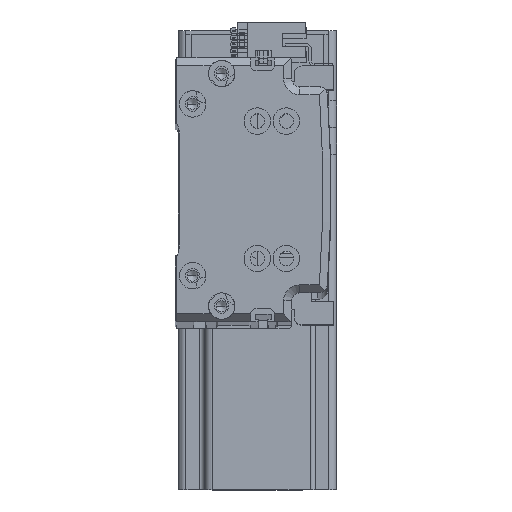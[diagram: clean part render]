
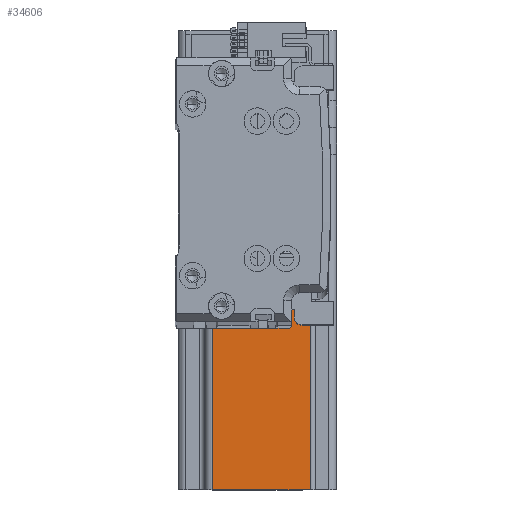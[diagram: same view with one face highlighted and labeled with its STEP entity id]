
A CAD part, top view. The second image highlights one B-rep face of the part: STEP entity #34606.
In plain terms, the highlighted planar face has unit normal (0, 0, 1) as drawn and (-1, 0, 0) by its records, which use the part's own axes.
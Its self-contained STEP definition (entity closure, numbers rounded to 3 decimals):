
#1482 = VECTOR ( 'NONE', #54717, 1000. ) ;
#2549 = VERTEX_POINT ( 'NONE', #33793 ) ;
#3264 = VECTOR ( 'NONE', #19195, 1000. ) ;
#4182 = ORIENTED_EDGE ( 'NONE', *, *, #14760, .F. ) ;
#4742 = VERTEX_POINT ( 'NONE', #36850 ) ;
#4825 = AXIS2_PLACEMENT_3D ( 'NONE', #40047, #13815, #44481 ) ;
#6378 = LINE ( 'NONE', #8606, #26887 ) ;
#6568 = EDGE_CURVE ( 'NONE', #44377, #4742, #35814, .T. ) ;
#7349 = VERTEX_POINT ( 'NONE', #17423 ) ;
#7611 = DIRECTION ( 'NONE',  ( 0., 1., 0. ) ) ;
#8373 = CARTESIAN_POINT ( 'NONE',  ( -30., 20., 10. ) ) ;
#8460 = ORIENTED_EDGE ( 'NONE', *, *, #6568, .T. ) ;
#8606 = CARTESIAN_POINT ( 'NONE',  ( -30., -30., 137. ) ) ;
#9092 = VERTEX_POINT ( 'NONE', #13419 ) ;
#9552 = ORIENTED_EDGE ( 'NONE', *, *, #55688, .T. ) ;
#10097 = VECTOR ( 'NONE', #40309, 1000. ) ;
#10295 = VECTOR ( 'NONE', #7611, 1000. ) ;
#13092 = EDGE_CURVE ( 'NONE', #4742, #34110, #18953, .T. ) ;
#13102 = LINE ( 'NONE', #50317, #1482 ) ;
#13419 = CARTESIAN_POINT ( 'NONE',  ( -30., 20., 137. ) ) ;
#13815 = DIRECTION ( 'NONE',  ( 1., 0., 0. ) ) ;
#14760 = EDGE_CURVE ( 'NONE', #21367, #34110, #14864, .T. ) ;
#14864 = LINE ( 'NONE', #36639, #3264 ) ;
#16518 = ORIENTED_EDGE ( 'NONE', *, *, #35011, .F. ) ;
#16654 = ORIENTED_EDGE ( 'NONE', *, *, #50469, .T. ) ;
#17423 = CARTESIAN_POINT ( 'NONE',  ( -30., 27., 10. ) ) ;
#18953 = LINE ( 'NONE', #38284, #42306 ) ;
#19195 = DIRECTION ( 'NONE',  ( 0., -1., 0. ) ) ;
#19388 = LINE ( 'NONE', #8373, #52994 ) ;
#21367 = VERTEX_POINT ( 'NONE', #23271 ) ;
#21931 = LINE ( 'NONE', #46726, #10295 ) ;
#22845 = CARTESIAN_POINT ( 'NONE',  ( -30., -27., 10. ) ) ;
#23206 = CARTESIAN_POINT ( 'NONE',  ( -30., 20., 10. ) ) ;
#23271 = CARTESIAN_POINT ( 'NONE',  ( -30., -17., 10. ) ) ;
#23519 = VERTEX_POINT ( 'NONE', #23206 ) ;
#23546 = ORIENTED_EDGE ( 'NONE', *, *, #13092, .T. ) ;
#24160 = VECTOR ( 'NONE', #42269, 1000. ) ;
#26668 = CARTESIAN_POINT ( 'NONE',  ( -30., 27., 0. ) ) ;
#26887 = VECTOR ( 'NONE', #39233, 1000. ) ;
#33793 = CARTESIAN_POINT ( 'NONE',  ( -30., -17., 137. ) ) ;
#34110 = VERTEX_POINT ( 'NONE', #22845 ) ;
#34606 = ADVANCED_FACE ( 'NONE', ( #51018 ), #48683, .F. ) ;
#35011 = EDGE_CURVE ( 'NONE', #9092, #2549, #6378, .T. ) ;
#35814 = LINE ( 'NONE', #37846, #24160 ) ;
#35899 = CARTESIAN_POINT ( 'NONE',  ( -30., 27., 137. ) ) ;
#36639 = CARTESIAN_POINT ( 'NONE',  ( -30., -30., 10. ) ) ;
#36850 = CARTESIAN_POINT ( 'NONE',  ( -30., -27., 0. ) ) ;
#37846 = CARTESIAN_POINT ( 'NONE',  ( -30., -30., 0. ) ) ;
#38284 = CARTESIAN_POINT ( 'NONE',  ( -30., -27., 137. ) ) ;
#38994 = DIRECTION ( 'NONE',  ( 0., 0., 1. ) ) ;
#39233 = DIRECTION ( 'NONE',  ( 0., -1., 0. ) ) ;
#39684 = EDGE_CURVE ( 'NONE', #23519, #7349, #21931, .T. ) ;
#40047 = CARTESIAN_POINT ( 'NONE',  ( -30., -30., 137. ) ) ;
#40309 = DIRECTION ( 'NONE',  ( 0., 0., -1. ) ) ;
#40888 = ORIENTED_EDGE ( 'NONE', *, *, #41818, .F. ) ;
#41614 = ORIENTED_EDGE ( 'NONE', *, *, #39684, .T. ) ;
#41818 = EDGE_CURVE ( 'NONE', #23519, #9092, #19388, .T. ) ;
#42269 = DIRECTION ( 'NONE',  ( 0., -1., 0. ) ) ;
#42306 = VECTOR ( 'NONE', #42516, 1000. ) ;
#42516 = DIRECTION ( 'NONE',  ( 0., 0., 1. ) ) ;
#44377 = VERTEX_POINT ( 'NONE', #26668 ) ;
#44481 = DIRECTION ( 'NONE',  ( 0., 0., -1. ) ) ;
#45074 = LINE ( 'NONE', #35899, #10097 ) ;
#46726 = CARTESIAN_POINT ( 'NONE',  ( -30., 30., 10. ) ) ;
#48683 = PLANE ( 'NONE',  #4825 ) ;
#50317 = CARTESIAN_POINT ( 'NONE',  ( -30., -17., 137. ) ) ;
#50469 = EDGE_CURVE ( 'NONE', #7349, #44377, #45074, .T. ) ;
#51018 = FACE_OUTER_BOUND ( 'NONE', #52662, .T. ) ;
#52662 = EDGE_LOOP ( 'NONE', ( #4182, #9552, #16518, #40888, #41614, #16654, #8460, #23546 ) ) ;
#52994 = VECTOR ( 'NONE', #38994, 1000. ) ;
#54717 = DIRECTION ( 'NONE',  ( 0., 0., 1. ) ) ;
#55688 = EDGE_CURVE ( 'NONE', #21367, #2549, #13102, .T. ) ;
